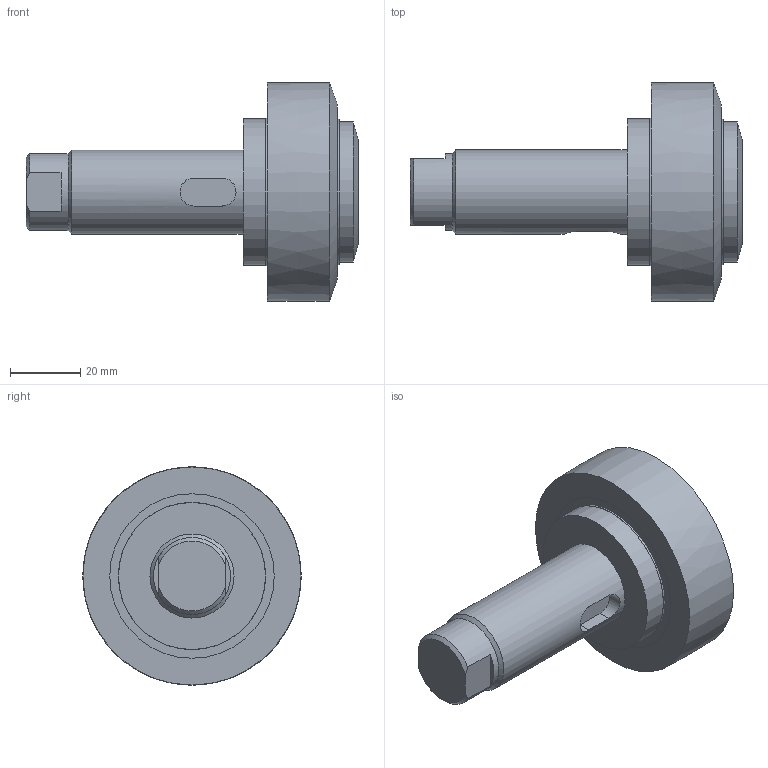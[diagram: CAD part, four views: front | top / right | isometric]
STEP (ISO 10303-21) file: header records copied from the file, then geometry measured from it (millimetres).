
FILE_DESCRIPTION(/* description */ ('-','CAx-IF Rec.Pracs.---Representation and Presentation of Product Manufacturing Information (PMI)---4.0---2014-10-13'),/* implementation_level */ '2;1');
FILE_NAME(/* name */ 'c:\temp\fdf71abb-61c7-43d3-bce1-04b8b7abc4f2\7922089c-4a97-449b-a579-f47a1efe61a2.stp',/* time_stamp */ '2020-05-28T11:01:08+02:00',/* author */ ('-'),/* organization */ ('NTI CADcenter A/S'),/* preprocessor_version */ 'ST-DEVELOPER v18',/* originating_system */ 'Autodesk Inventor 2020',/* authorisation */ '-');
FILE_SCHEMA (('AP242_MANAGED_MODEL_BASED_3D_ENGINEERING_MIM_LF { 1 0 10303 442 1 1 4 }'));
Length unit declared in the file: millimetre
Products named in the file (1): TR 060.1360_Kontur
Bounding box: 94.85 x 62.5 x 62.5 mm (x, y, z)
Volume: 165848.2 mm3; surface area: 40676.6 mm2
Topology: 7 solids, 7 shells, 50 faces, 108 edges, 79 vertices
Faces by surface type: plane 27, cylinder 15, cone 7, bspline 1
Full cylindrical faces by diameter (mm): 22 x1, 24 x1, 25.2 x1, 38 x1, 40 x1, 41.5 x1, 42 x1, 42.1 x2, 45 x1, 45.5 x1, 47 x2
Entity records: 1584 total; most frequent: CARTESIAN_POINT 308, DIRECTION 266, ORIENTED_EDGE 216, AXIS2_PLACEMENT_3D 116, EDGE_CURVE 108, VERTEX_POINT 79, CIRCLE 66, EDGE_LOOP 57
